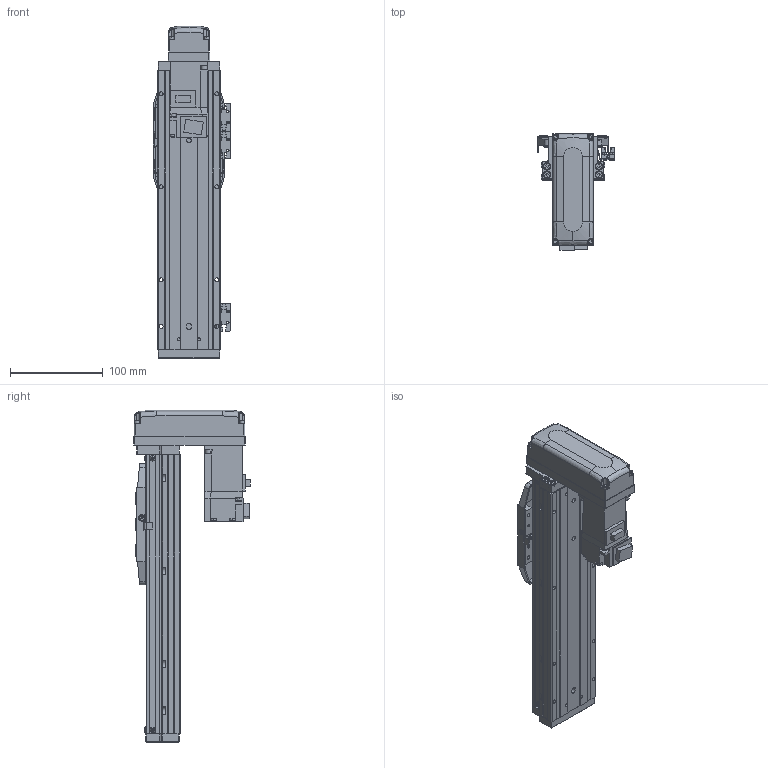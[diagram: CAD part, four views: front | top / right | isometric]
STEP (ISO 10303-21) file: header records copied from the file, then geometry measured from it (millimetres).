
FILE_DESCRIPTION (( 'STEP AP203' ), '1' );
FILE_NAME ('CTHA60-150-BM-M10-C4L.step', '2022-03-19T06:16:51', ( '微软用户' ), ( '微软中国' ), 'SwSTEP 2.0', 'SolidWorks 2020', '' );
FILE_SCHEMA (( 'CONFIG_CONTROL_DESIGN' ));
Length unit declared in the file: millimetre
Products named in the file (18): EE_SX911P_R; CTHA60-016; CTHA60-017; HG-KR13（三菱）; CTHA60-021; CTHA60-002; CTHA60-001_300; GBT 70.1-M4×16; CTHA60-031; CTHA60-004; GBT77-2000 M3×3; CTHA60-006-1; CTHA60-005; GBT 70.1-M3℅6; CTHA60-033; GB¨uT 70.2-M3¡Á6_M3¡Á6; GBT 70.3-M3℅6; CTHA60-150-BM-M10-C4L
Assembly tree (54 placements, depth 2):
  CTHA60-150-BM-M10-C4L
    CTHA60-001_300
    CTHA60-004
    CTHA60-005
    GB¨uT 70.2-M3¡Á6_M3¡Á6  x10
    EE_SX911P_R  x3
    CTHA60-017  x3
    CTHA60-021  x2
    GBT 70.1-M4×16  x10
    GBT77-2000 M3×3  x6
    GBT 70.1-M3℅6  x6
    GBT 70.3-M3℅6  x4
    CTHA60-016  x2
    HG-KR13（三菱）
    CTHA60-002
    CTHA60-031
    CTHA60-006-1
    CTHA60-033
Bounding box: 83.12 x 125.3 x 357 mm (x, y, z)
Volume: 765111.8 mm3; surface area: 249815.6 mm2
Topology: 56 solids, 56 shells, 2454 faces, 5869 edges, 3613 vertices
Faces by surface type: plane 1413, cylinder 559, cone 334, torus 92, bspline 32, sphere 24
Entity records: 43073 total; most frequent: CARTESIAN_POINT 8362, DIRECTION 6616, ORIENTED_EDGE 6546, EDGE_CURVE 3273, VECTOR 2316, LINE 2316, AXIS2_PLACEMENT_3D 2150, VERTEX_POINT 2072
